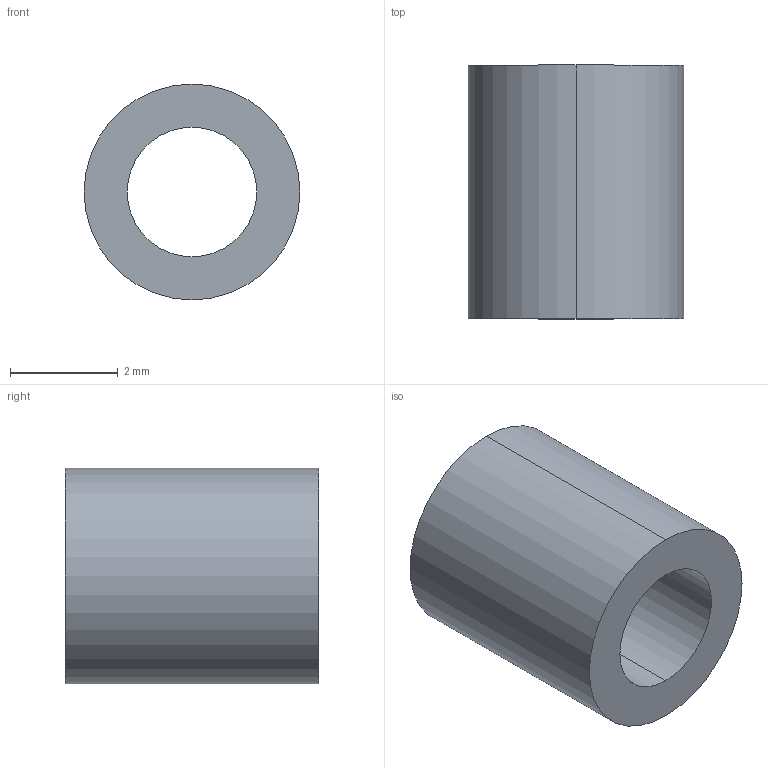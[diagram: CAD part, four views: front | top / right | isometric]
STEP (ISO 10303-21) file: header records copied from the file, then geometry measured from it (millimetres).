
FILE_DESCRIPTION (( 'STEP AP214' ), '1' );
FILE_NAME ('Fijacion tornillo PP74.STEP', '2018-01-04T15:51:45', ( 'aaa' ), ( '' ), 'SwSTEP 2.0', 'SolidWorks 2013', '' );
FILE_SCHEMA (( 'AUTOMOTIVE_DESIGN' ));
Length unit declared in the file: millimetre
Products named in the file (1): Fijacion tornillo PP74
Bounding box: 4 x 4.7 x 4 mm (x, y, z)
Volume: 37.8 mm3; surface area: 110.6 mm2
Topology: 1 solids, 1 shells, 6 faces, 12 edges, 8 vertices
Faces by surface type: cylinder 4, plane 2
Entity records: 202 total; most frequent: DIRECTION 34, CARTESIAN_POINT 27, ORIENTED_EDGE 24, AXIS2_PLACEMENT_3D 15, EDGE_CURVE 12, CIRCLE 8, VERTEX_POINT 8, EDGE_LOOP 8
